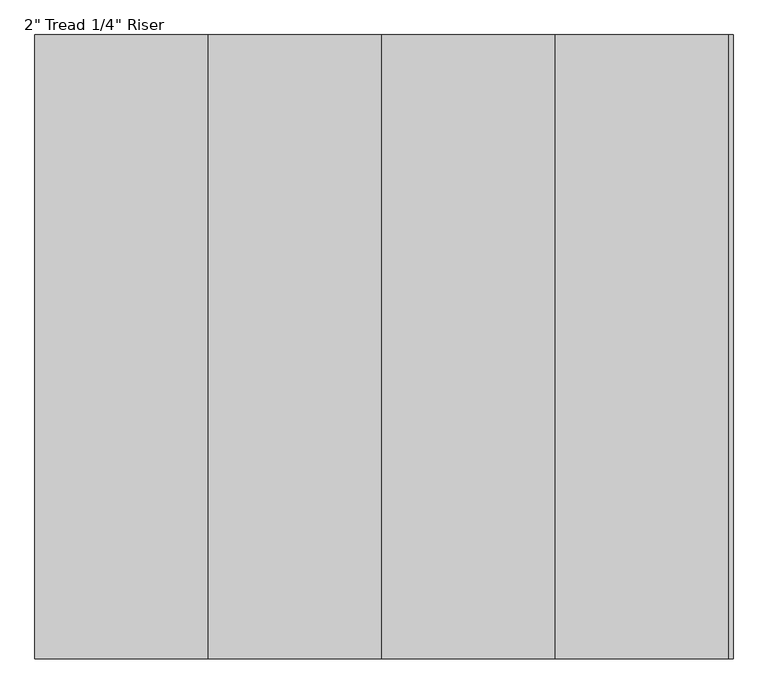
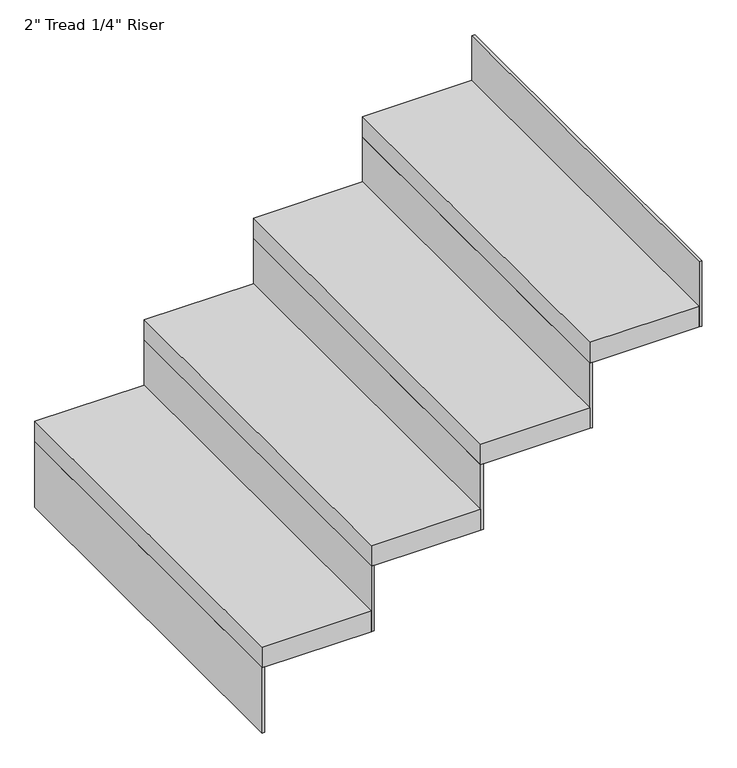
"""IFC4 building model written with IfcOpenShell, lengths in millimetres: stair flight geometry."""

import ifcopenshell
import ifcopenshell.guid

model = None  # the IFC model being written
_history = None  # IfcOwnerHistory: only IFC2X3 demands one
_inside = {}  # id of a spatial element -> (the spatial element, [elements in it])
_under = {}  # id of a project, library or spatial element -> (it, [spatial elements below it])
_declared = {}  # id of a project -> (the project, [libraries it declares])
_typed = {}  # id of a type object -> (the type object, [elements of that type])
_made_of = {}  # id of a material, layer set ... -> (it, [elements and type objects made of it])


def new_model(schema):
    """Start an empty IFC model of exactly this schema.

    Asked for "IFC4X3", IfcOpenShell would pick the latest addendum, in which some entities
    have other attributes; the version numbers below select the first issue.
    IFC2X3 requires an IfcOwnerHistory on every rooted entity: one is made here for all.
    """
    global model, _history
    if schema == "IFC4X3":
        model = ifcopenshell.file(schema_version=(4, 3, 0, 0))
    else:
        model = ifcopenshell.file(schema=schema)
    _inside.clear()
    _under.clear()
    _declared.clear()
    _typed.clear()
    _made_of.clear()
    _history = None
    if model.schema == "IFC2X3":
        org = make("IfcOrganization", Name="unknown")
        user = make(
            "IfcPersonAndOrganization",
            ThePerson=make("IfcPerson", FamilyName="unknown"),
            TheOrganization=org,
        )
        app = make(
            "IfcApplication",
            ApplicationDeveloper=org,
            Version="unknown",
            ApplicationFullName="unknown",
            ApplicationIdentifier="unknown",
        )
        _history = make(
            "IfcOwnerHistory",
            OwningUser=user,
            OwningApplication=app,
            ChangeAction="ADDED",
            CreationDate=0,
        )
    return model


def make(cls, **values):
    """One entity of the class cls with the attributes given. An attribute that is None is left unset."""
    return model.create_entity(
        cls, **{name: value for name, value in values.items() if value is not None}
    )


def rooted(cls, **values):
    """An entity with a GlobalId (a new one), such as an element, a storey or a relation."""
    return make(cls, GlobalId=ifcopenshell.guid.new(), OwnerHistory=_history, **values)


def si_unit(unit_type, name, prefix=None):
    """IfcSIUnit, for example si_unit("LENGTHUNIT", "METRE", prefix="MILLI")."""
    return make("IfcSIUnit", UnitType=unit_type, Prefix=prefix, Name=name)


def assignment(units):
    """IfcUnitAssignment: the units of a project."""
    return None if units is None else make("IfcUnitAssignment", Units=units)


def point(xyz):
    """IfcCartesianPoint."""
    return None if xyz is None else make("IfcCartesianPoint", Coordinates=xyz)


def direction(xyz):
    """IfcDirection."""
    return None if xyz is None else make("IfcDirection", DirectionRatios=xyz)


def frame(location, z_axis=None, x_axis=None):
    """IfcAxis2Placement3D, a coordinate frame: its origin and axes. An axis left out is left unset."""
    return make(
        "IfcAxis2Placement3D",
        Location=point(location),
        Axis=direction(z_axis),
        RefDirection=direction(x_axis),
    )


def origin():
    """The frame at (0, 0, 0) with its axes left unset."""
    return frame((0.0, 0.0, 0.0))


def place(relative_to, where):
    """IfcLocalPlacement: puts the frame where relative to a parent placement (None: the world)."""
    return make(
        "IfcLocalPlacement", PlacementRelTo=relative_to, RelativePlacement=where
    )


def context(
    kind, dimensions, precision=None, world=None, true_north=None, identifier=None
):
    """IfcGeometricRepresentationContext, for example the 3D "Model" context."""
    return make(
        "IfcGeometricRepresentationContext",
        ContextIdentifier=identifier,
        ContextType=kind,
        CoordinateSpaceDimension=dimensions,
        Precision=precision,
        WorldCoordinateSystem=world,
        TrueNorth=true_north,
    )


def project(units=None, contexts=None):
    """IfcProject with its units and contexts."""
    return rooted(
        "IfcProject",
        Name="project",
        RepresentationContexts=contexts,
        UnitsInContext=assignment(units),
    )


def spatial(cls, under=None, at=None, **own):
    """A site, building, storey or space (cls), placed at a placement, below another one or the project."""
    s = rooted(cls, ObjectPlacement=at, **own)
    if under is not None:
        _under.setdefault(under.id(), (under, []))[1].append(s)
    return s


def polyline(points):
    """IfcPolyline through the points."""
    return make("IfcPolyline", Points=[point(p) for p in points])


def outline(outer, holes=None, kind="AREA"):
    """IfcArbitraryClosedProfileDef: a profile drawn as a closed curve; with holes, ...WithVoids."""
    if holes is None:
        return make("IfcArbitraryClosedProfileDef", ProfileType=kind, OuterCurve=outer)
    return make(
        "IfcArbitraryProfileDefWithVoids",
        ProfileType=kind,
        OuterCurve=outer,
        InnerCurves=holes,
    )


def extrude(swept, where, along, depth):
    """IfcExtrudedAreaSolid: the profile swept, set in the frame where, extruded along a direction by depth."""
    return make(
        "IfcExtrudedAreaSolid",
        SweptArea=swept,
        Position=where,
        ExtrudedDirection=direction(along),
        Depth=depth,
    )


def shape(context_of_items, identifier, shape_type, items):
    """IfcShapeRepresentation: the items that make up one representation, for example the "Body"."""
    return make(
        "IfcShapeRepresentation",
        ContextOfItems=context_of_items,
        RepresentationIdentifier=identifier,
        RepresentationType=shape_type,
        Items=items,
    )


def source(mapping_origin, context_of_items, identifier, shape_type, items):
    """IfcRepresentationMap: a shape defined once, which mapped items show again and again."""
    return make(
        "IfcRepresentationMap",
        MappingOrigin=mapping_origin,
        MappedRepresentation=shape(context_of_items, identifier, shape_type, items),
    )


def transform(
    local_origin,
    x_axis=None,
    y_axis=None,
    z_axis=None,
    scale=None,
    scale2=None,
    scale3=None,
    uniform=True,
):
    """IfcCartesianTransformationOperator3D, or its non-uniform kind. x_axis, y_axis, z_axis: its Axis1, 2, 3."""
    if uniform:
        return make(
            "IfcCartesianTransformationOperator3D",
            Axis1=direction(x_axis),
            Axis2=direction(y_axis),
            LocalOrigin=point(local_origin),
            Scale=scale,
            Axis3=direction(z_axis),
        )
    return make(
        "IfcCartesianTransformationOperator3DnonUniform",
        Axis1=direction(x_axis),
        Axis2=direction(y_axis),
        LocalOrigin=point(local_origin),
        Scale=scale,
        Axis3=direction(z_axis),
        Scale2=scale2,
        Scale3=scale3,
    )


def mapped(mapping_source, mapping_target):
    """IfcMappedItem: shows the shape of a source again, moved by a transform."""
    return make(
        "IfcMappedItem", MappingSource=mapping_source, MappingTarget=mapping_target
    )


def made_of(thing, what):
    """Note that an element or type object is made of a material, layer set ...; save() writes the relation."""
    if what is not None:
        _made_of.setdefault(what.id(), (what, []))[1].append(thing)
    return thing


def element(
    cls,
    number,
    at=None,
    inside=None,
    cuts=None,
    type_object=None,
    material=None,
    context=None,
    identifier="Body",
    shape_type=None,
    held_by="IfcProductDefinitionShape",
    body=None,
    shapes=None,
    **own,
):
    """One element of the class cls, such as IfcWall. Its Tag is "e" and its number.

    at: its placement. inside: the storey or other place that contains it. cuts: it is an
    opening in that element (IfcRelVoidsElement). A single representation is given by context,
    identifier, shape_type and body (its items); several are given by shapes. held_by: the class
    of the entity that holds the representations. save() writes the other relations.
    """
    e = rooted(cls, Tag="e%d" % number, ObjectPlacement=at, **own)
    if body is not None:
        shapes = [shape(context, identifier, shape_type, body)]
    if shapes is not None:
        e.Representation = make(held_by, Representations=shapes)
    if inside is not None:
        _inside.setdefault(inside.id(), (inside, []))[1].append(e)
    if cuts is not None:
        rooted(
            "IfcRelVoidsElement", RelatingBuildingElement=cuts, RelatedOpeningElement=e
        )
    if type_object is not None:
        _typed.setdefault(type_object.id(), (type_object, []))[1].append(e)
    return made_of(e, material)


def aggregate(whole, parts):
    """IfcRelAggregates: a whole, such as a stair, and the parts it consists of."""
    return rooted("IfcRelAggregates", RelatingObject=whole, RelatedObjects=parts)


def save(model, path):
    """Write the relations noted so far, then the file.

    IfcRelAggregates (storeys below a building ...), IfcRelContainedInSpatialStructure (elements
    in a storey), IfcRelDefinesByType, IfcRelAssociatesMaterial and IfcRelDeclares: one each for
    every whole, place, type object, material and project.
    """
    for whole, parts in _under.values():
        aggregate(whole, parts)
    for where, things in _inside.values():
        rooted(
            "IfcRelContainedInSpatialStructure",
            RelatedElements=things,
            RelatingStructure=where,
        )
    for kind, things in _typed.values():
        rooted("IfcRelDefinesByType", RelatedObjects=things, RelatingType=kind)
    for what, things in _made_of.values():
        rooted("IfcRelAssociatesMaterial", RelatedObjects=things, RelatingMaterial=what)
    for by, libraries in _declared.values():
        rooted("IfcRelDeclares", RelatingContext=by, RelatedDefinitions=libraries)
    model.write(path)


def stair_flight_ee7fe192(model_context):
    return source(origin(), model_context, "Body", "SweptSolid", [
        extrude(outline(polyline([(89404.0707174, -35451.4428514), (89397.7207174, -35451.4428514), (89397.7207174, -34537.0428514), (89404.0707174, -34537.0428514), (89404.0707174, -35451.4428514)])), frame((0.0, 0.0, 2195.0947368), z_axis=(0.0, 0.0, 1.0), x_axis=(1.0, 0.0, 0.0)), (0.0, 0.0, 1.0), 160.4210526),
        extrude(outline(polyline([(89651.7207174, -34537.0428514), (89651.7207174, -35451.4428514), (89397.7207174, -35451.4428514), (89397.7207174, -34537.0428514), (89651.7207174, -34537.0428514)])), frame((0.0, 0.0, 2355.5157895), z_axis=(0.0, 0.0, 1.0), x_axis=(1.0, 0.0, 0.0)), (0.0, 0.0, 1.0), 50.8),
        extrude(outline(polyline([(89658.0707174, -35451.4428514), (89651.7207174, -35451.4428514), (89651.7207174, -34537.0428514), (89658.0707174, -34537.0428514), (89658.0707174, -35451.4428514)])), frame((0.0, 0.0, 2355.5157895), z_axis=(0.0, 0.0, 1.0), x_axis=(1.0, 0.0, 0.0)), (0.0, 0.0, 1.0), 160.4210526),
        extrude(outline(polyline([(89905.7207174, -34537.0428514), (89905.7207174, -35451.4428514), (89651.7207174, -35451.4428514), (89651.7207174, -34537.0428514), (89905.7207174, -34537.0428514)])), frame((0.0, 0.0, 2515.9368421), z_axis=(0.0, 0.0, 1.0), x_axis=(1.0, 0.0, 0.0)), (0.0, 0.0, 1.0), 50.8),
        extrude(outline(polyline([(89912.0707174, -35451.4428514), (89905.7207174, -35451.4428514), (89905.7207174, -34537.0428514), (89912.0707174, -34537.0428514), (89912.0707174, -35451.4428514)])), frame((0.0, 0.0, 2515.9368421), z_axis=(0.0, 0.0, 1.0), x_axis=(1.0, 0.0, 0.0)), (0.0, 0.0, 1.0), 160.4210526),
        extrude(outline(polyline([(90159.7207174, -34537.0428514), (90159.7207174, -35451.4428514), (89905.7207174, -35451.4428514), (89905.7207174, -34537.0428514), (90159.7207174, -34537.0428514)])), frame((0.0, 0.0, 2676.3578947), z_axis=(0.0, 0.0, 1.0), x_axis=(1.0, 0.0, 0.0)), (0.0, 0.0, 1.0), 50.8),
        extrude(outline(polyline([(90166.0707174, -35451.4428514), (90159.7207174, -35451.4428514), (90159.7207174, -34537.0428514), (90166.0707174, -34537.0428514), (90166.0707174, -35451.4428514)])), frame((0.0, 0.0, 2676.3578947), z_axis=(0.0, 0.0, 1.0), x_axis=(1.0, 0.0, 0.0)), (0.0, 0.0, 1.0), 160.4210526),
        extrude(outline(polyline([(90420.0707174, -35451.4428514), (90413.7207174, -35451.4428514), (90413.7207174, -34537.0428514), (90420.0707174, -34537.0428514), (90420.0707174, -35451.4428514)])), frame((0.0, 0.0, 2836.7789474), z_axis=(0.0, 0.0, 1.0), x_axis=(1.0, 0.0, 0.0)), (0.0, 0.0, 1.0), 160.4210526),
        extrude(outline(polyline([(90413.7207174, -34537.0428514), (90413.7207174, -35451.4428514), (90159.7207174, -35451.4428514), (90159.7207174, -34537.0428514), (90413.7207174, -34537.0428514)])), frame((0.0, 0.0, 2836.7789474), z_axis=(0.0, 0.0, 1.0), x_axis=(1.0, 0.0, 0.0)), (0.0, 0.0, 1.0), 50.8),
    ])


if __name__ == "__main__":
    model = new_model("IFC4")
    model_context = context("Model", 3, world=origin())
    ifc_project = project(units=[si_unit("LENGTHUNIT", "METRE", prefix="MILLI")], contexts=[model_context])
    site = spatial("IfcSite", under=ifc_project)
    building = spatial("IfcBuilding", under=site)
    placement = place(None, origin())
    stair_flight_shape = stair_flight_ee7fe192(model_context)
    element("IfcStairFlight", 1, ObjectType="2\" Tread 1/4\" Riser", at=placement, inside=building, context=model_context, shape_type="MappedRepresentation", body=[
        mapped(stair_flight_shape, transform((0.0, 0.0, 0.0), x_axis=(1.0, 0.0, 0.0), y_axis=(0.0, 1.0, 0.0), z_axis=(0.0, 0.0, 1.0))),
    ])
    save(model, "model.ifc")
